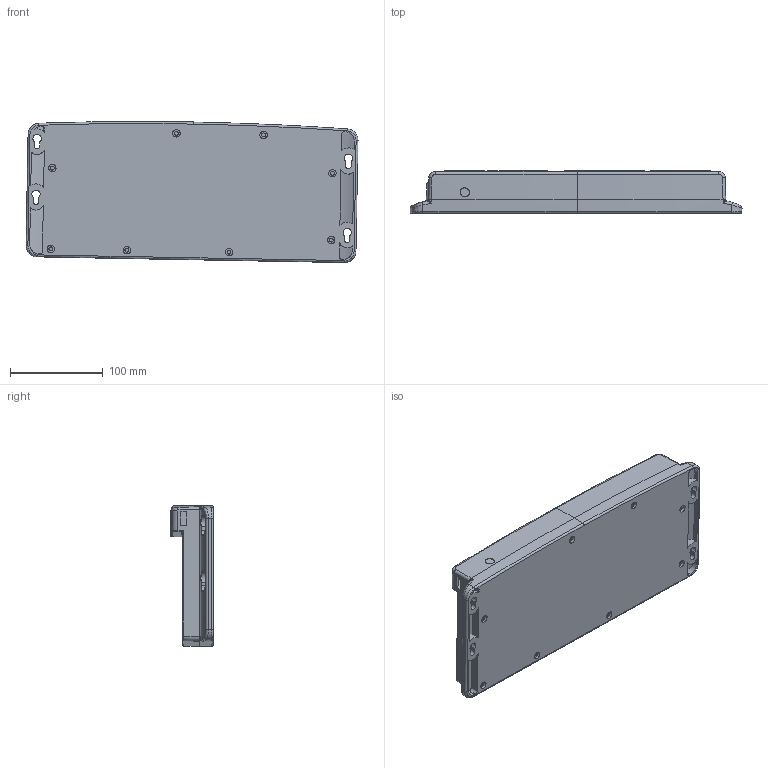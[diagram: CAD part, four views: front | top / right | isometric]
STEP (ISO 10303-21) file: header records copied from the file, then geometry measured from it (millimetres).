
FILE_DESCRIPTION (( 'STEP AP203' ), '1' );
FILE_NAME ('3D_TC8.STEP', '2014-03-04T07:30:31', ( '' ), ( '' ), 'SwSTEP 2.0', 'SolidWorks 2010', '' );
FILE_SCHEMA (( 'CONFIG_CONTROL_DESIGN' ));
Length unit declared in the file: millimetre
Products named in the file (1): 3D_TC8
Bounding box: 357.81 x 46 x 151.95 mm (x, y, z)
Surface area: 160659.9 mm2 (no closed solid volume)
Topology: 0 solids, 3 shells, 473 faces, 1353 edges, 874 vertices
Faces by surface type: cylinder 206, plane 108, cone 91, bspline 62, torus 6
Entity records: 31069 total; most frequent: CARTESIAN_POINT 19003, ORIENTED_EDGE 2517, DIRECTION 2439, EDGE_CURVE 1349, AXIS2_PLACEMENT_3D 942, VERTEX_POINT 874, VECTOR 555, LINE 555
